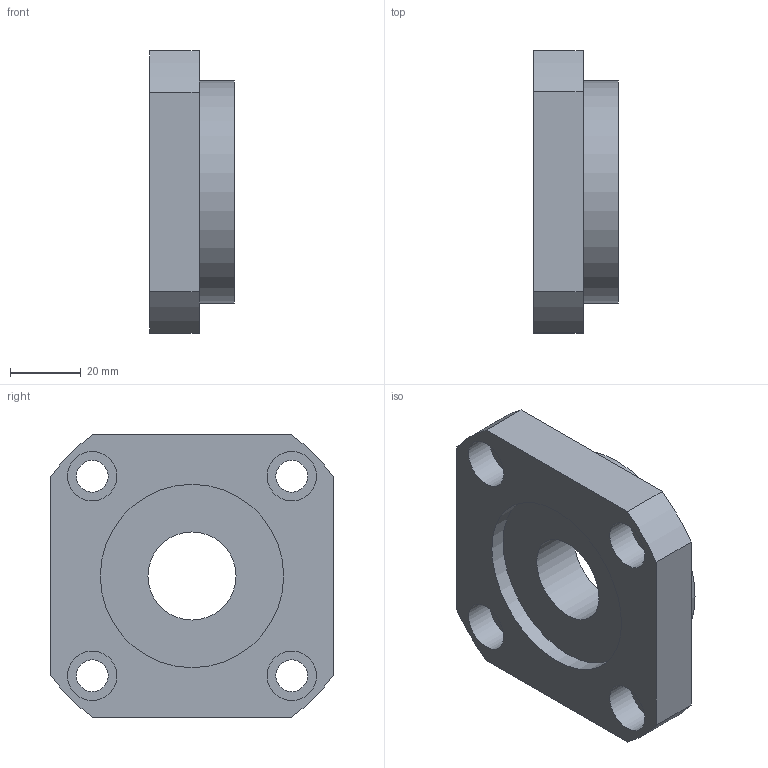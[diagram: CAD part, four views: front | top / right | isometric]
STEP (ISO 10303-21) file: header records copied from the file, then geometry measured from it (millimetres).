
FILE_DESCRIPTION((''),'2;1');
FILE_NAME('D:\製品 (図面)\カタログ用3D\ネジ関連\STEP形式\FF\FF25.stp','2010-06-01T16:42:34',('Tsuchiya'),(''),'Autodesk Inventor 10','Autodesk Inventor 10','');
FILE_SCHEMA(('AUTOMOTIVE_DESIGN { 1 0 10303 214 1 1 1 1 }'));
Length unit declared in the file: millimetre
Products named in the file (1): FF25
Bounding box: 24 x 80 x 80 mm (x, y, z)
Volume: 84265.7 mm3; surface area: 21669.8 mm2
Topology: 1 solids, 1 shells, 29 faces, 60 edges, 40 vertices
Faces by surface type: cylinder 16, plane 13
Full cylindrical faces by diameter (mm): 9 x4, 14 x4, 25 x1, 52 x2, 63 x1
Entity records: 769 total; most frequent: DIRECTION 140, CARTESIAN_POINT 118, ORIENTED_EDGE 96, AXIS2_PLACEMENT_3D 62, EDGE_LOOP 58, EDGE_CURVE 48, VERTEX_POINT 40, CIRCLE 32
